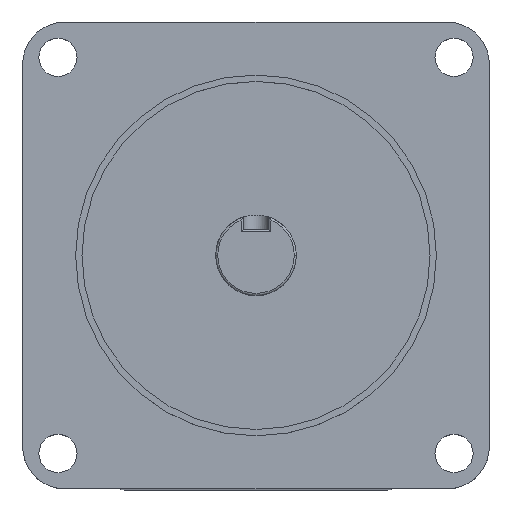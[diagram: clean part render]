
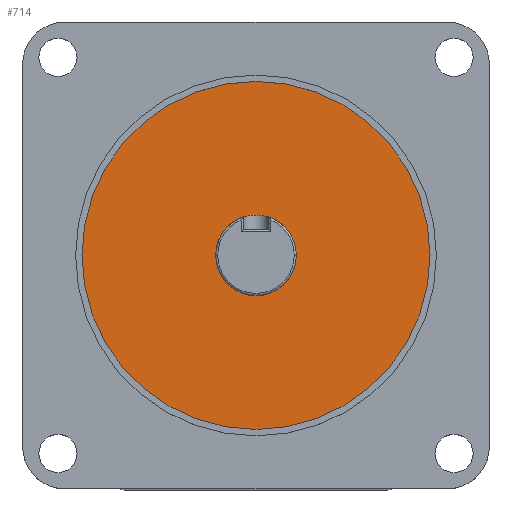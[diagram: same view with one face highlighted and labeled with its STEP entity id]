
A CAD part, top view. The second image highlights one B-rep face of the part: STEP entity #714.
In plain terms, the highlighted planar face has unit normal (0, 0, 1).
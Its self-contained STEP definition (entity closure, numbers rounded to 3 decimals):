
#26 = CARTESIAN_POINT ( 'NONE',  ( 41., 0., 0. ) ) ;
#45 = ORIENTED_EDGE ( 'NONE', *, *, #2441, .T. ) ;
#147 = DIRECTION ( 'NONE',  ( -1., 0., 0. ) ) ;
#249 = ORIENTED_EDGE ( 'NONE', *, *, #2032, .T. ) ;
#259 = CIRCLE ( 'NONE', #2652, 9.5 ) ;
#291 = CARTESIAN_POINT ( 'NONE',  ( 9.5, 0., 0. ) ) ;
#317 = DIRECTION ( 'NONE',  ( 0., 0., 1. ) ) ;
#356 = EDGE_LOOP ( 'NONE', ( #1919, #1496 ) ) ;
#395 = DIRECTION ( 'NONE',  ( -1., 0., 0. ) ) ;
#438 = DIRECTION ( 'NONE',  ( 0., 0., -1. ) ) ;
#449 = VERTEX_POINT ( 'NONE', #26 ) ;
#450 = CIRCLE ( 'NONE', #1273, 9.5 ) ;
#458 = DIRECTION ( 'NONE',  ( -1., 0., 0. ) ) ;
#477 = DIRECTION ( 'NONE',  ( 0., 0., 1. ) ) ;
#504 = CARTESIAN_POINT ( 'NONE',  ( 0., 0., 0. ) ) ;
#510 = CIRCLE ( 'NONE', #2115, 41. ) ;
#533 = CARTESIAN_POINT ( 'NONE',  ( -45., -45., 0. ) ) ;
#601 = PLANE ( 'NONE',  #1965 ) ;
#707 = EDGE_CURVE ( 'NONE', #2145, #1080, #450, .T. ) ;
#714 = ADVANCED_FACE ( 'NONE', ( #1013, #1559 ), #601, .F. ) ;
#787 = EDGE_CURVE ( 'NONE', #1080, #2145, #259, .T. ) ;
#1013 = FACE_OUTER_BOUND ( 'NONE', #1987, .T. ) ;
#1038 = CARTESIAN_POINT ( 'NONE',  ( 0., 0., 0. ) ) ;
#1080 = VERTEX_POINT ( 'NONE', #1682 ) ;
#1195 = CIRCLE ( 'NONE', #1338, 41. ) ;
#1244 = DIRECTION ( 'NONE',  ( 1., 0., 0. ) ) ;
#1273 = AXIS2_PLACEMENT_3D ( 'NONE', #504, #477, #458 ) ;
#1338 = AXIS2_PLACEMENT_3D ( 'NONE', #1038, #2459, #1244 ) ;
#1394 = DIRECTION ( 'NONE',  ( 0., 0., 1. ) ) ;
#1496 = ORIENTED_EDGE ( 'NONE', *, *, #707, .F. ) ;
#1524 = VERTEX_POINT ( 'NONE', #2582 ) ;
#1555 = CARTESIAN_POINT ( 'NONE',  ( 0., 0., 0. ) ) ;
#1559 = FACE_BOUND ( 'NONE', #356, .T. ) ;
#1682 = CARTESIAN_POINT ( 'NONE',  ( -9.5, 0., 0. ) ) ;
#1757 = DIRECTION ( 'NONE',  ( 1., 0., 0. ) ) ;
#1919 = ORIENTED_EDGE ( 'NONE', *, *, #787, .F. ) ;
#1965 = AXIS2_PLACEMENT_3D ( 'NONE', #533, #438, #395 ) ;
#1987 = EDGE_LOOP ( 'NONE', ( #45, #249 ) ) ;
#2032 = EDGE_CURVE ( 'NONE', #449, #1524, #510, .T. ) ;
#2115 = AXIS2_PLACEMENT_3D ( 'NONE', #1555, #317, #1757 ) ;
#2145 = VERTEX_POINT ( 'NONE', #291 ) ;
#2441 = EDGE_CURVE ( 'NONE', #1524, #449, #1195, .T. ) ;
#2459 = DIRECTION ( 'NONE',  ( 0., 0., 1. ) ) ;
#2582 = CARTESIAN_POINT ( 'NONE',  ( -41., 0., 0. ) ) ;
#2617 = CARTESIAN_POINT ( 'NONE',  ( 0., 0., 0. ) ) ;
#2652 = AXIS2_PLACEMENT_3D ( 'NONE', #2617, #1394, #147 ) ;
